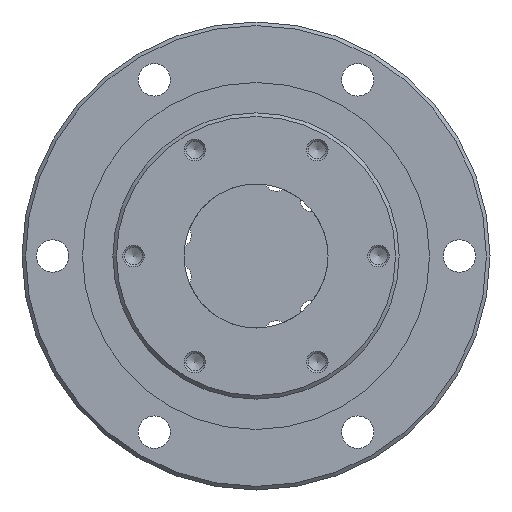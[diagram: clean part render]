
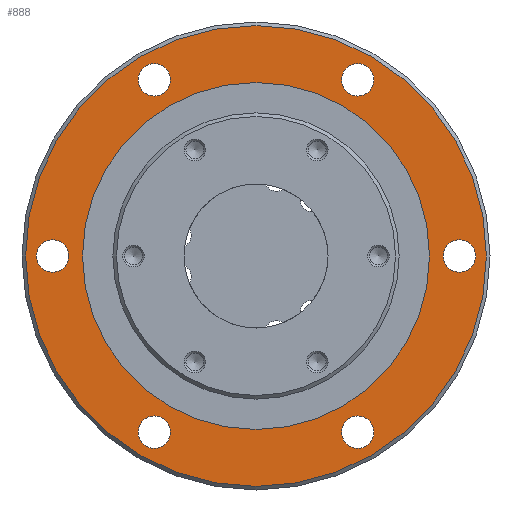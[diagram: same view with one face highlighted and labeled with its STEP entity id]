
A CAD part, left-side view. The second image highlights one B-rep face of the part: STEP entity #888.
In plain terms, the highlighted planar face has unit normal (-1, 0, 0).
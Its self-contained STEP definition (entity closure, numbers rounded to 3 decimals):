
#65=PLANE('',#1021);
#188=ORIENTED_EDGE('',*,*,#340,.F.);
#189=ORIENTED_EDGE('',*,*,#341,.F.);
#190=ORIENTED_EDGE('',*,*,#342,.F.);
#191=ORIENTED_EDGE('',*,*,#343,.F.);
#192=ORIENTED_EDGE('',*,*,#344,.F.);
#193=ORIENTED_EDGE('',*,*,#345,.F.);
#194=ORIENTED_EDGE('',*,*,#346,.F.);
#195=ORIENTED_EDGE('',*,*,#339,.T.);
#339=EDGE_CURVE('',#423,#423,#512,.T.);
#340=EDGE_CURVE('',#424,#424,#513,.T.);
#341=EDGE_CURVE('',#425,#425,#514,.F.);
#342=EDGE_CURVE('',#426,#426,#515,.F.);
#343=EDGE_CURVE('',#427,#427,#516,.F.);
#344=EDGE_CURVE('',#428,#428,#517,.F.);
#345=EDGE_CURVE('',#429,#429,#518,.F.);
#346=EDGE_CURVE('',#430,#430,#519,.F.);
#423=VERTEX_POINT('',#1567);
#424=VERTEX_POINT('',#1570);
#425=VERTEX_POINT('',#1572);
#426=VERTEX_POINT('',#1574);
#427=VERTEX_POINT('',#1576);
#428=VERTEX_POINT('',#1578);
#429=VERTEX_POINT('',#1580);
#430=VERTEX_POINT('',#1582);
#512=CIRCLE('',#1020,48.182);
#513=CIRCLE('',#1022,64.);
#514=CIRCLE('',#1023,4.5);
#515=CIRCLE('',#1024,4.5);
#516=CIRCLE('',#1025,4.5);
#517=CIRCLE('',#1026,4.5);
#518=CIRCLE('',#1027,4.5);
#519=CIRCLE('',#1028,4.5);
#591=EDGE_LOOP('',(#188));
#592=EDGE_LOOP('',(#189));
#593=EDGE_LOOP('',(#190));
#594=EDGE_LOOP('',(#191));
#595=EDGE_LOOP('',(#192));
#596=EDGE_LOOP('',(#193));
#597=EDGE_LOOP('',(#194));
#598=EDGE_LOOP('',(#195));
#725=FACE_BOUND('',#591,.T.);
#726=FACE_BOUND('',#592,.T.);
#727=FACE_BOUND('',#593,.T.);
#728=FACE_BOUND('',#594,.T.);
#729=FACE_BOUND('',#595,.T.);
#730=FACE_BOUND('',#596,.T.);
#731=FACE_BOUND('',#597,.T.);
#732=FACE_BOUND('',#598,.T.);
#888=ADVANCED_FACE('',(#725,#726,#727,#728,#729,#730,#731,#732),#65,.F.);
#1020=AXIS2_PLACEMENT_3D('',#1566,#1246,#1247);
#1021=AXIS2_PLACEMENT_3D('',#1568,#1248,#1249);
#1022=AXIS2_PLACEMENT_3D('',#1569,#1250,#1251);
#1023=AXIS2_PLACEMENT_3D('',#1571,#1252,#1253);
#1024=AXIS2_PLACEMENT_3D('',#1573,#1254,#1255);
#1025=AXIS2_PLACEMENT_3D('',#1575,#1256,#1257);
#1026=AXIS2_PLACEMENT_3D('',#1577,#1258,#1259);
#1027=AXIS2_PLACEMENT_3D('',#1579,#1260,#1261);
#1028=AXIS2_PLACEMENT_3D('',#1581,#1262,#1263);
#1246=DIRECTION('',(1.,0.,0.));
#1247=DIRECTION('',(0.,0.,-1.));
#1248=DIRECTION('',(1.,0.,0.));
#1249=DIRECTION('',(0.,0.,-1.));
#1250=DIRECTION('',(1.,0.,0.));
#1251=DIRECTION('',(0.,0.,-1.));
#1252=DIRECTION('',(1.,0.,0.));
#1253=DIRECTION('',(0.,0.,-1.));
#1254=DIRECTION('',(1.,0.,0.));
#1255=DIRECTION('',(0.,0.,-1.));
#1256=DIRECTION('',(1.,0.,0.));
#1257=DIRECTION('',(0.,0.,-1.));
#1258=DIRECTION('',(1.,0.,0.));
#1259=DIRECTION('',(0.,0.,-1.));
#1260=DIRECTION('',(1.,0.,0.));
#1261=DIRECTION('',(0.,0.,-1.));
#1262=DIRECTION('',(1.,0.,0.));
#1263=DIRECTION('',(0.,0.,-1.));
#1566=CARTESIAN_POINT('',(20.,0.,0.));
#1567=CARTESIAN_POINT('',(20.,0.,-48.182));
#1568=CARTESIAN_POINT('',(20.,48.182,0.));
#1569=CARTESIAN_POINT('',(20.,0.,0.));
#1570=CARTESIAN_POINT('',(20.,0.,-64.));
#1571=CARTESIAN_POINT('',(20.,56.5,0.));
#1572=CARTESIAN_POINT('',(20.,56.5,-4.5));
#1573=CARTESIAN_POINT('',(20.,28.25,-48.93));
#1574=CARTESIAN_POINT('',(20.,28.25,-53.43));
#1575=CARTESIAN_POINT('',(20.,-28.25,-48.93));
#1576=CARTESIAN_POINT('',(20.,-28.25,-53.43));
#1577=CARTESIAN_POINT('',(20.,-56.5,0.));
#1578=CARTESIAN_POINT('',(20.,-56.5,-4.5));
#1579=CARTESIAN_POINT('',(20.,-28.25,48.93));
#1580=CARTESIAN_POINT('',(20.,-28.25,44.43));
#1581=CARTESIAN_POINT('',(20.,28.25,48.93));
#1582=CARTESIAN_POINT('',(20.,28.25,44.43));
